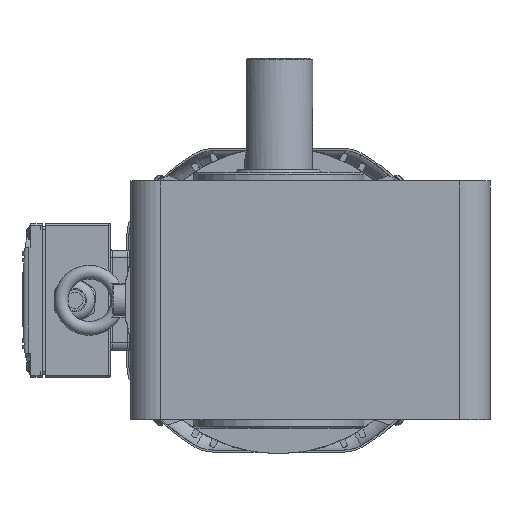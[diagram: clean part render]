
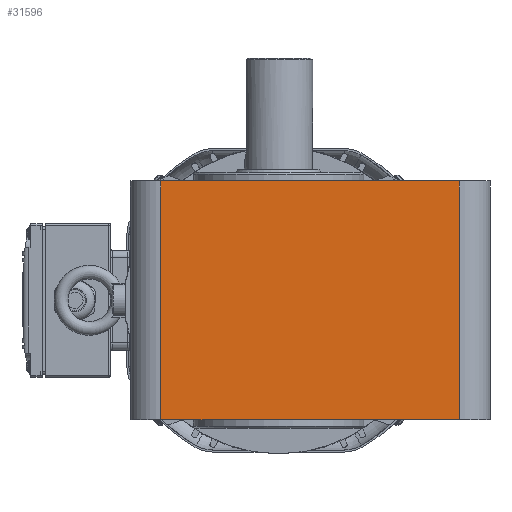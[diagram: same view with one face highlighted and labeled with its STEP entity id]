
A CAD part, left-side view. The second image highlights one B-rep face of the part: STEP entity #31596.
In plain terms, the highlighted planar face has unit normal (-1, 0, 0).
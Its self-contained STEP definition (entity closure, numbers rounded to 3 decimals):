
#2441=LINE('',#61300,#4512);
#2466=LINE('',#61410,#4537);
#2467=LINE('',#61414,#4538);
#2468=LINE('',#61415,#4539);
#4512=VECTOR('',#41720,175.);
#4537=VECTOR('',#41835,140.);
#4538=VECTOR('',#41840,140.);
#4539=VECTOR('',#41841,175.);
#7320=FACE_OUTER_BOUND('',#9213,.T.);
#9213=EDGE_LOOP('',(#25613,#25614,#25615,#25616));
#13869=VERTEX_POINT('',#61297);
#13870=VERTEX_POINT('',#61299);
#13910=VERTEX_POINT('',#61409);
#13911=VERTEX_POINT('',#61413);
#17937=EDGE_CURVE('',#13870,#13869,#2441,.T.);
#17990=EDGE_CURVE('',#13870,#13910,#2466,.T.);
#17992=EDGE_CURVE('',#13911,#13869,#2467,.T.);
#17993=EDGE_CURVE('',#13911,#13910,#2468,.T.);
#25613=ORIENTED_EDGE('',*,*,#17990,.F.);
#25614=ORIENTED_EDGE('',*,*,#17937,.T.);
#25615=ORIENTED_EDGE('',*,*,#17992,.F.);
#25616=ORIENTED_EDGE('',*,*,#17993,.T.);
#28636=PLANE('',#34610);
#31596=ADVANCED_FACE('',(#7320),#28636,.T.);
#34610=AXIS2_PLACEMENT_3D('',#61412,#41838,#41839);
#41720=DIRECTION('',(0.,1.,0.));
#41835=DIRECTION('',(0.,0.,-1.));
#41838=DIRECTION('center_axis',(-1.,0.,0.));
#41839=DIRECTION('ref_axis',(0.,0.,1.));
#41840=DIRECTION('',(0.,0.,1.));
#41841=DIRECTION('',(0.,-1.,0.));
#61297=CARTESIAN_POINT('',(-79.247,71.368,44.));
#61299=CARTESIAN_POINT('',(-79.247,-103.632,44.));
#61300=CARTESIAN_POINT('',(-79.247,-103.632,44.));
#61409=CARTESIAN_POINT('',(-79.247,-103.632,-96.));
#61410=CARTESIAN_POINT('',(-79.247,-103.632,44.));
#61412=CARTESIAN_POINT('Origin',(-79.247,-121.632,-96.));
#61413=CARTESIAN_POINT('',(-79.247,71.368,-96.));
#61414=CARTESIAN_POINT('',(-79.247,71.368,-96.));
#61415=CARTESIAN_POINT('',(-79.247,71.368,-96.));
